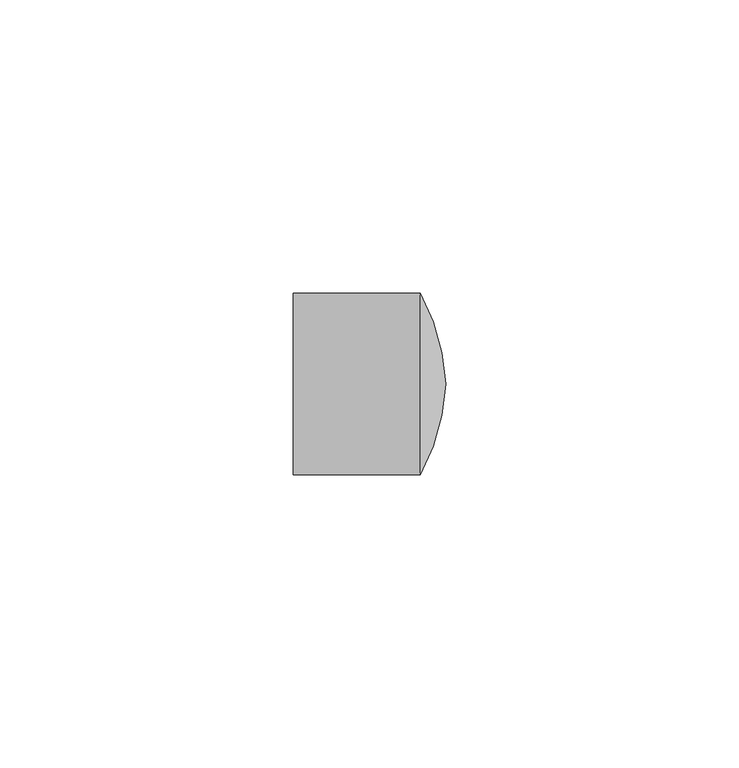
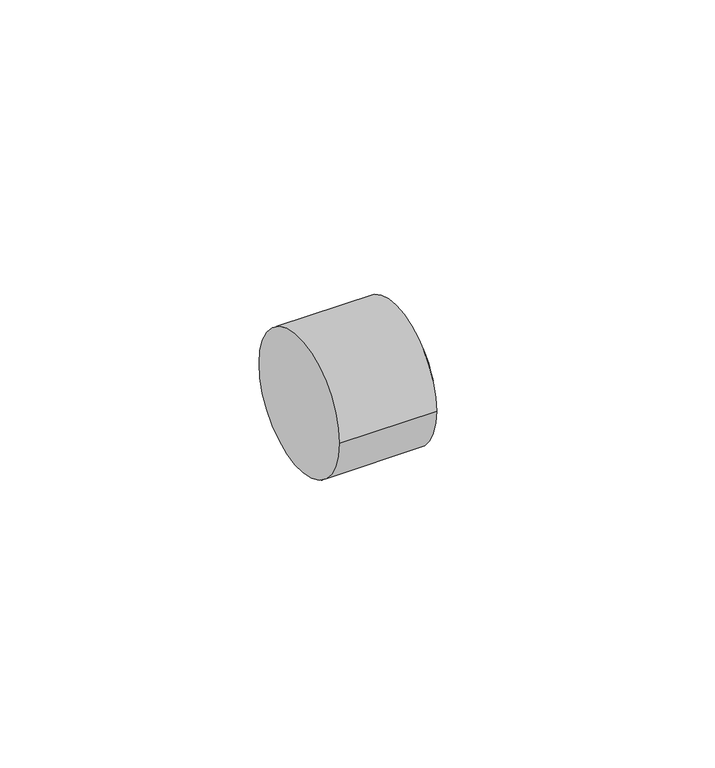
"""IFC4 building model written with IfcOpenShell, lengths in millimetres: pipe fitting geometry, 01051012 : Tapones H."""

from ifc_helpers import new_model, si_unit, point, frame, origin, place, context, project, spatial, circle_curve, ellipse_curve, trimmed, source, transform, mapped, element, save
from ifc_brep_helpers import plane_surface, cylinder_surface, revolved_surface, advanced_brep


def pipe_fitting_ac7341e2(model_context):
    return source(origin(), model_context, "Body", "AdvancedBrep", [
        advanced_brep(
        [(21.6666667, 15.5, 0.0), (26.0, 0.0, 0.0), (21.6666667, -15.5, 0.0), (0.0, -15.5, 0.0), (0.0, 15.5, 0.0)],
        [
            (0, 1, circle_curve(frame((-8.6924269, -1.3432233, 0.0), z_axis=(0.0, 0.0, -1.0), x_axis=(1.0, 0.0, 0.0)), 34.7184207)),
            (1, 2, circle_curve(frame((-8.6924269, 1.3432233, 0.0), z_axis=(0.0, 0.0, -1.0), x_axis=(1.0, 0.0, 0.0)), 34.7184207)),
            (2, 0, circle_curve(frame((21.6666667, 0.0, 0.0), z_axis=(1.0, 0.0, 0.0), x_axis=(0.0, 1.0, 0.0)), 15.5)),
            (0, 2, circle_curve(frame((21.6666667, 0.0, 0.0), z_axis=(1.0, 0.0, 0.0), x_axis=(0.0, 1.0, 0.0)), 15.5)),
            (3, 4, circle_curve(frame((0.0, 0.0, 0.0), z_axis=(-1.0, 0.0, 0.0), x_axis=(0.0, 1.0, 0.0)), 15.5)),
            (4, 3, circle_curve(frame((0.0, 0.0, 0.0), z_axis=(-1.0, 0.0, 0.0), x_axis=(0.0, 1.0, 0.0)), 15.5)),
            (3, 2),
            (0, 4),
        ],
        [
            revolved_surface(trimmed(ellipse_curve(frame((-8.6924269, -1.3432233, 0.0), z_axis=(0.0, 0.0, 1.0), x_axis=(1.0, 0.0, 0.0)), 34.7184207, 34.7184207), [point((26.0, 0.0, 0.0))], [point((21.6666667, 15.5, 0.0))], True, "CARTESIAN"), (21.6666667, 0.0, 0.0), (-1.0, 0.0, 0.0)),
            plane_surface(frame((0.0, 0.0, 0.0), z_axis=(-1.0, 0.0, 0.0), x_axis=(0.0, 0.0, 1.0))),
            cylinder_surface(frame((0.0, 0.0, 0.0), z_axis=(-1.0, 0.0, 0.0), x_axis=(0.0, 1.0, 0.0)), 15.5),
        ],
        [
            (0, [[1, 2, 3]]),
            (0, [[-1, 4, -2]]),
            (1, [[5, 6]]),
            (2, [[-5, 7, -4, 8]]),
            (2, [[-6, -8, -3, -7]]),
        ],
    ),
    ])


if __name__ == "__main__":
    model = new_model("IFC4")
    model_context = context("Model", 3, world=origin())
    ifc_project = project(units=[si_unit("LENGTHUNIT", "METRE", prefix="MILLI")], contexts=[model_context])
    site = spatial("IfcSite", under=ifc_project)
    building = spatial("IfcBuilding", under=site)
    placement = place(None, origin())
    pipe_fitting_shape = pipe_fitting_ac7341e2(model_context)
    element("IfcPipeFitting", 1, ObjectType="01051012 : Tapones H", at=placement, inside=building, context=model_context, shape_type="MappedRepresentation", body=[
        mapped(pipe_fitting_shape, transform((0.0, 0.0, 0.0), x_axis=(1.0, 0.0, 0.0), y_axis=(0.0, 1.0, 0.0), z_axis=(0.0, 0.0, 1.0))),
    ])
    save(model, "model.ifc")
